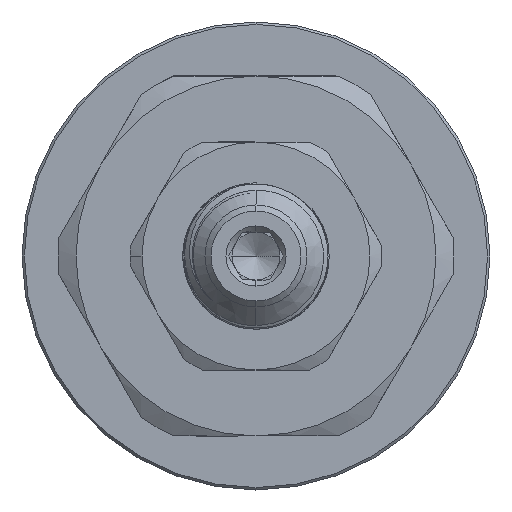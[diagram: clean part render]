
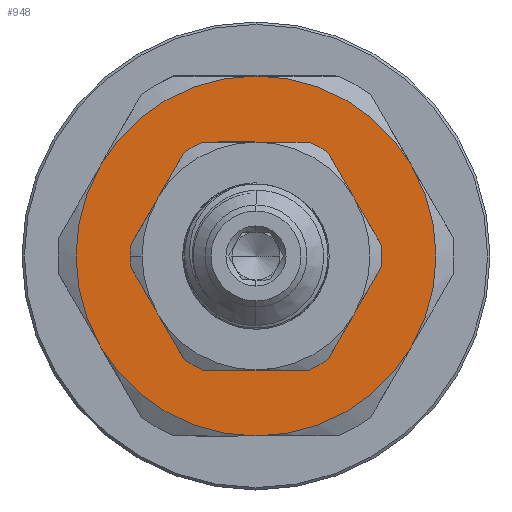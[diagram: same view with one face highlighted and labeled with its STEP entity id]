
A CAD part, left-side view. The second image highlights one B-rep face of the part: STEP entity #948.
In plain terms, the highlighted planar face has unit normal (-1, 0, 0).
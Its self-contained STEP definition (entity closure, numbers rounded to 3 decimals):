
#35 = EDGE_CURVE ( 'NONE', #1914, #11002, #3101, .T. ) ;
#312 = DIRECTION ( 'NONE',  ( 1., 0., 0. ) ) ;
#370 = AXIS2_PLACEMENT_3D ( 'NONE', #14873, #2805, #13368 ) ;
#518 = CIRCLE ( 'NONE', #16587, 9.5 ) ;
#700 = DIRECTION ( 'NONE',  ( 1., 0., 0. ) ) ;
#900 = CARTESIAN_POINT ( 'NONE',  ( -59.64, 0.56, 0. ) ) ;
#948 = ADVANCED_FACE ( 'NONE', ( #19261, #15252 ), #8686, .F. ) ;
#1246 = VERTEX_POINT ( 'NONE', #14262 ) ;
#1338 = CARTESIAN_POINT ( 'NONE',  ( -59.64, 0.56, 0. ) ) ;
#1549 = AXIS2_PLACEMENT_3D ( 'NONE', #13637, #8815, #15080 ) ;
#1572 = AXIS2_PLACEMENT_3D ( 'NONE', #9707, #700, #11218 ) ;
#1578 = ORIENTED_EDGE ( 'NONE', *, *, #12352, .T. ) ;
#1914 = VERTEX_POINT ( 'NONE', #2865 ) ;
#1933 = AXIS2_PLACEMENT_3D ( 'NONE', #11243, #2241, #12773 ) ;
#1965 = AXIS2_PLACEMENT_3D ( 'NONE', #9334, #312, #10828 ) ;
#2213 = VERTEX_POINT ( 'NONE', #3955 ) ;
#2241 = DIRECTION ( 'NONE',  ( 1., 0., 0. ) ) ;
#2416 = DIRECTION ( 'NONE',  ( 0., 0., -1. ) ) ;
#2753 = EDGE_CURVE ( 'NONE', #11002, #12926, #518, .T. ) ;
#2805 = DIRECTION ( 'NONE',  ( 1., 0., 0. ) ) ;
#2838 = DIRECTION ( 'NONE',  ( 0., 0., -1. ) ) ;
#2847 = CARTESIAN_POINT ( 'NONE',  ( -59.64, -12.431, 7.5 ) ) ;
#2865 = CARTESIAN_POINT ( 'NONE',  ( -59.64, 0.56, -9.5 ) ) ;
#3101 = CIRCLE ( 'NONE', #370, 9.5 ) ;
#3184 = EDGE_CURVE ( 'NONE', #12201, #1914, #11348, .T. ) ;
#3438 = ORIENTED_EDGE ( 'NONE', *, *, #8388, .T. ) ;
#3568 = AXIS2_PLACEMENT_3D ( 'NONE', #15782, #6756, #17336 ) ;
#3830 = ORIENTED_EDGE ( 'NONE', *, *, #6045, .T. ) ;
#3839 = CIRCLE ( 'NONE', #5362, 15. ) ;
#3955 = CARTESIAN_POINT ( 'NONE',  ( -59.64, 13.55, -7.5 ) ) ;
#4257 = ORIENTED_EDGE ( 'NONE', *, *, #8288, .F. ) ;
#4318 = CARTESIAN_POINT ( 'NONE',  ( -59.64, -7.668, 4.75 ) ) ;
#4533 = VERTEX_POINT ( 'NONE', #17019 ) ;
#5165 = CIRCLE ( 'NONE', #6529, 15. ) ;
#5319 = DIRECTION ( 'NONE',  ( 1., 0., 0. ) ) ;
#5362 = AXIS2_PLACEMENT_3D ( 'NONE', #1338, #11845, #2838 ) ;
#5373 = DIRECTION ( 'NONE',  ( 1., 0., 0. ) ) ;
#5525 = ORIENTED_EDGE ( 'NONE', *, *, #2753, .T. ) ;
#5890 = CARTESIAN_POINT ( 'NONE',  ( -59.64, 0.56, 0. ) ) ;
#5997 = EDGE_CURVE ( 'NONE', #18727, #16483, #8904, .T. ) ;
#6045 = EDGE_CURVE ( 'NONE', #12926, #4533, #12915, .T. ) ;
#6193 = VERTEX_POINT ( 'NONE', #7094 ) ;
#6400 = ORIENTED_EDGE ( 'NONE', *, *, #3184, .T. ) ;
#6529 = AXIS2_PLACEMENT_3D ( 'NONE', #5890, #16427, #7412 ) ;
#6633 = ORIENTED_EDGE ( 'NONE', *, *, #5997, .F. ) ;
#6756 = DIRECTION ( 'NONE',  ( 1., 0., 0. ) ) ;
#7094 = CARTESIAN_POINT ( 'NONE',  ( -59.64, 0.56, -15. ) ) ;
#7412 = DIRECTION ( 'NONE',  ( 0., 0., -1. ) ) ;
#7443 = CIRCLE ( 'NONE', #17610, 15. ) ;
#7508 = ORIENTED_EDGE ( 'NONE', *, *, #11848, .F. ) ;
#7516 = DIRECTION ( 'NONE',  ( 1., 0., 0. ) ) ;
#7582 = CARTESIAN_POINT ( 'NONE',  ( -59.64, 0.56, 0. ) ) ;
#8288 = EDGE_CURVE ( 'NONE', #16483, #15251, #3839, .T. ) ;
#8388 = EDGE_CURVE ( 'NONE', #12996, #12201, #12096, .T. ) ;
#8686 = PLANE ( 'NONE',  #1549 ) ;
#8800 = CARTESIAN_POINT ( 'NONE',  ( -59.64, 8.787, 4.75 ) ) ;
#8815 = DIRECTION ( 'NONE',  ( 1., 0., 0. ) ) ;
#8904 = CIRCLE ( 'NONE', #1572, 15. ) ;
#9086 = DIRECTION ( 'NONE',  ( 0., 0., 1. ) ) ;
#9142 = ORIENTED_EDGE ( 'NONE', *, *, #35, .T. ) ;
#9334 = CARTESIAN_POINT ( 'NONE',  ( -59.64, 0.56, 0. ) ) ;
#9583 = CARTESIAN_POINT ( 'NONE',  ( -59.64, 8.787, -4.75 ) ) ;
#9707 = CARTESIAN_POINT ( 'NONE',  ( -59.64, 0.56, 0. ) ) ;
#9755 = AXIS2_PLACEMENT_3D ( 'NONE', #16530, #7516, #18052 ) ;
#9947 = CIRCLE ( 'NONE', #18734, 15. ) ;
#9976 = ORIENTED_EDGE ( 'NONE', *, *, #13137, .F. ) ;
#10105 = ORIENTED_EDGE ( 'NONE', *, *, #17459, .F. ) ;
#10309 = ORIENTED_EDGE ( 'NONE', *, *, #11579, .F. ) ;
#10828 = DIRECTION ( 'NONE',  ( 0., 0., 1. ) ) ;
#11002 = VERTEX_POINT ( 'NONE', #9583 ) ;
#11218 = DIRECTION ( 'NONE',  ( 0., 0., -1. ) ) ;
#11243 = CARTESIAN_POINT ( 'NONE',  ( -59.64, 0.56, 0. ) ) ;
#11348 = CIRCLE ( 'NONE', #9755, 9.5 ) ;
#11424 = DIRECTION ( 'NONE',  ( 1., 0., 0. ) ) ;
#11579 = EDGE_CURVE ( 'NONE', #15251, #6193, #12073, .T. ) ;
#11845 = DIRECTION ( 'NONE',  ( 1., 0., 0. ) ) ;
#11848 = EDGE_CURVE ( 'NONE', #6193, #2213, #9947, .T. ) ;
#12073 = CIRCLE ( 'NONE', #1933, 15. ) ;
#12096 = CIRCLE ( 'NONE', #1965, 9.5 ) ;
#12201 = VERTEX_POINT ( 'NONE', #15485 ) ;
#12352 = EDGE_CURVE ( 'NONE', #4533, #12996, #15600, .T. ) ;
#12440 = AXIS2_PLACEMENT_3D ( 'NONE', #14355, #5319, #15866 ) ;
#12773 = DIRECTION ( 'NONE',  ( 0., 0., -1. ) ) ;
#12915 = CIRCLE ( 'NONE', #3568, 9.5 ) ;
#12926 = VERTEX_POINT ( 'NONE', #8800 ) ;
#12996 = VERTEX_POINT ( 'NONE', #4318 ) ;
#13137 = EDGE_CURVE ( 'NONE', #2213, #1246, #5165, .T. ) ;
#13368 = DIRECTION ( 'NONE',  ( 0., 0., 1. ) ) ;
#13637 = CARTESIAN_POINT ( 'NONE',  ( -59.64, -14.62, 15.18 ) ) ;
#13983 = EDGE_LOOP ( 'NONE', ( #6400, #9142, #5525, #3830, #1578, #3438 ) ) ;
#14262 = CARTESIAN_POINT ( 'NONE',  ( -59.64, 13.55, 7.5 ) ) ;
#14355 = CARTESIAN_POINT ( 'NONE',  ( -59.64, 0.56, 0. ) ) ;
#14403 = CARTESIAN_POINT ( 'NONE',  ( -59.64, 0.56, 0. ) ) ;
#14873 = CARTESIAN_POINT ( 'NONE',  ( -59.64, 0.56, 0. ) ) ;
#15080 = DIRECTION ( 'NONE',  ( 0., 0., -1. ) ) ;
#15251 = VERTEX_POINT ( 'NONE', #16531 ) ;
#15252 = FACE_OUTER_BOUND ( 'NONE', #15942, .T. ) ;
#15485 = CARTESIAN_POINT ( 'NONE',  ( -59.64, -7.668, -4.75 ) ) ;
#15600 = CIRCLE ( 'NONE', #12440, 9.5 ) ;
#15782 = CARTESIAN_POINT ( 'NONE',  ( -59.64, 0.56, 0. ) ) ;
#15866 = DIRECTION ( 'NONE',  ( 0., 0., 1. ) ) ;
#15913 = DIRECTION ( 'NONE',  ( 0., 0., -1. ) ) ;
#15942 = EDGE_LOOP ( 'NONE', ( #9976, #7508, #10309, #4257, #6633, #10105 ) ) ;
#16427 = DIRECTION ( 'NONE',  ( 1., 0., 0. ) ) ;
#16483 = VERTEX_POINT ( 'NONE', #2847 ) ;
#16530 = CARTESIAN_POINT ( 'NONE',  ( -59.64, 0.56, 0. ) ) ;
#16531 = CARTESIAN_POINT ( 'NONE',  ( -59.64, -12.431, -7.5 ) ) ;
#16587 = AXIS2_PLACEMENT_3D ( 'NONE', #7582, #18124, #9086 ) ;
#17019 = CARTESIAN_POINT ( 'NONE',  ( -59.64, 0.56, 9.5 ) ) ;
#17336 = DIRECTION ( 'NONE',  ( 0., 0., 1. ) ) ;
#17459 = EDGE_CURVE ( 'NONE', #1246, #18727, #7443, .T. ) ;
#17610 = AXIS2_PLACEMENT_3D ( 'NONE', #900, #11424, #2416 ) ;
#18052 = DIRECTION ( 'NONE',  ( 0., 0., 1. ) ) ;
#18124 = DIRECTION ( 'NONE',  ( 1., 0., 0. ) ) ;
#18195 = CARTESIAN_POINT ( 'NONE',  ( -59.64, 0.56, 15. ) ) ;
#18727 = VERTEX_POINT ( 'NONE', #18195 ) ;
#18734 = AXIS2_PLACEMENT_3D ( 'NONE', #14403, #5373, #15913 ) ;
#19261 = FACE_BOUND ( 'NONE', #13983, .T. ) ;
